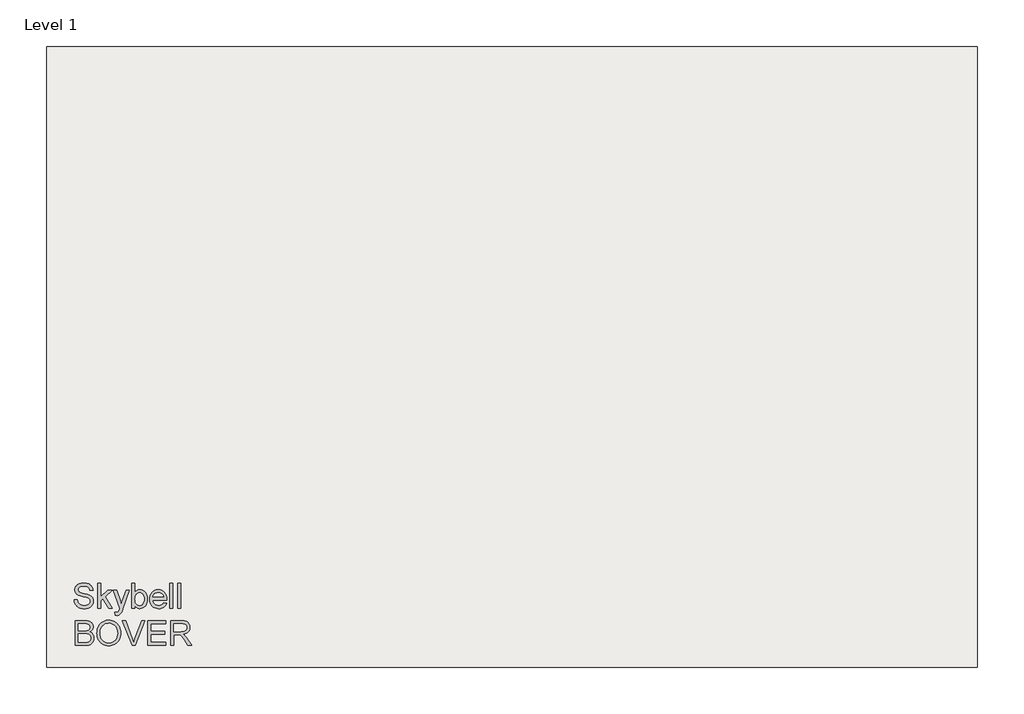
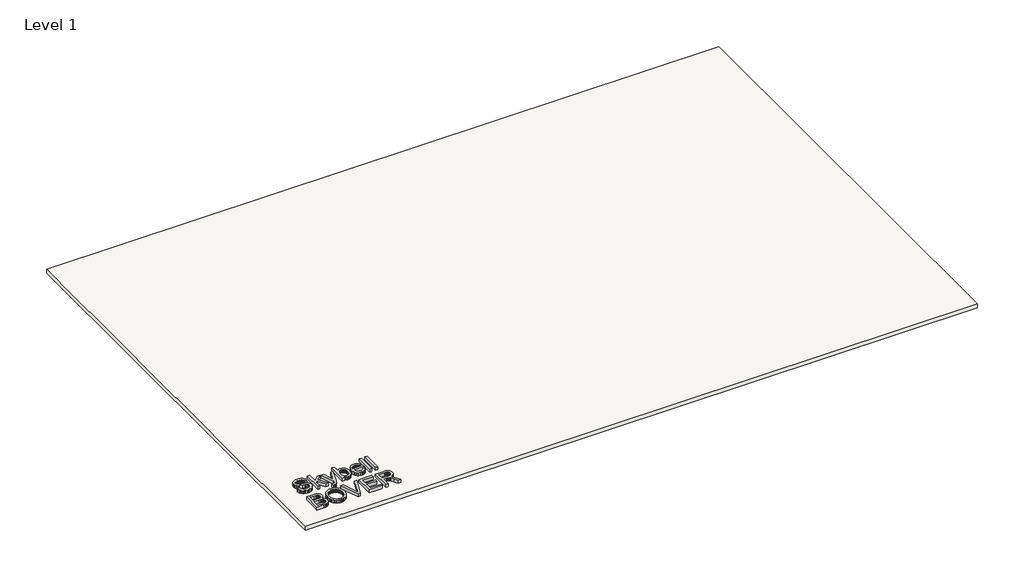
# One storey, incomplete: 2 proxies, 1 slab.
"""IFC4 building model written with IfcOpenShell, lengths in millimetres."""

from ifc_helpers import new_model, si_unit, frame, origin, origin_with_axes, place, context, project, spatial, polyline, outline, extrude, element, save

model = new_model("IFC4")

# Units and contexts
model_context = context("Model", 3, world=origin())
ifc_project = project(units=[si_unit("LENGTHUNIT", "METRE", prefix="MILLI")], contexts=[model_context])

# Site, building, storey
site = spatial("IfcSite", under=ifc_project)
building = spatial("IfcBuilding", under=site)
storey = spatial("IfcBuildingStorey", under=building, Name="Level 1", Elevation=0.0)

# Proxies
placement = place(None, origin())
element("IfcBuildingElementProxy", 1, Name="800mm Arial", ObjectType="800mm Arial", at=placement, inside=storey, context=model_context, shape_type="SweptSolid", body=[
    extrude(outline(polyline([(-17702.5035329, -9022.7630405), (-17702.5035329, -8223.3743422), (-17397.4633631, -8223.3743422), (-17353.2161935, -8224.8441654), (-17313.5675582, -8229.2536353), (-17278.5174571, -8236.6027516), (-17248.0658903, -8246.8915146), (-17221.4383035, -8260.2297034), (-17197.8601426, -8276.7270974), (-17177.3314075, -8296.3836966), (-17159.8520984, -8319.1995011), (-17145.8918267, -8343.887653), (-17135.920204, -8369.1612947), (-17129.9372305, -8395.0204262), (-17127.9429059, -8421.4650474), (-17129.6200902, -8445.8909487), (-17134.6516429, -8469.5971856), (-17143.0375641, -8492.5837578), (-17154.7778537, -8514.8506656), (-17169.9091049, -8535.7026398), (-17188.4679108, -8554.4444113), (-17210.4542714, -8571.07598), (-17235.8681867, -8585.5973461), (-17205.7093648, -8598.4537256), (-17179.246447, -8615.1645794), (-17156.4794333, -8635.7299076), (-17137.4083239, -8660.14971), (-17122.3380612, -8687.6799269), (-17111.5735878, -8717.5764983), (-17105.1149038, -8749.8394241), (-17102.9620091, -8784.4687044), (-17108.8413022, -8840.2122095), (-17126.4791815, -8891.9060771), (-17152.8018257, -8935.8666006), (-17184.7354136, -8968.4100736), (-17223.8412511, -8991.9760368), (-17271.6806443, -9009.0040309), (-17329.8148993, -9019.3232881), (-17399.8053221, -9022.7630405), (-17702.5035329, -9022.7630405)]), holes=[polyline([(-17602.5799456, -8548.1260009), (-17420.1023008, -8548.1260009), (-17356.283916, -8545.979205), (-17313.5431628, -8539.5388176), (-17276.2425854, -8524.7308055), (-17249.4320331, -8502.5553805), (-17233.2578782, -8473.3540782), (-17227.8664932, -8437.4684345), (-17232.8919471, -8402.6317932), (-17247.9683086, -8372.2839068), (-17272.4125065, -8348.5959666), (-17305.5414693, -8333.7391637), (-17356.3814976, -8325.908238), (-17433.958892, -8323.2979294), (-17602.5799456, -8323.2979294), (-17602.5799456, -8548.1260009)]), polyline([(-17602.5799456, -8922.8394532), (-17397.6585263, -8922.8394532), (-17323.4964889, -8918.9361881), (-17289.0745695, -8910.2758186), (-17260.7515019, -8897.175485), (-17237.7222377, -8878.415417), (-17219.1817283, -8852.7758441), (-17206.9596294, -8821.4033507), (-17202.8855964, -8785.4445207), (-17207.6670962, -8743.6795838), (-17222.0115955, -8707.7695446), (-17233.0566161, -8692.5041187), (-17247.0656786, -8679.6904311), (-17264.038783, -8669.328482), (-17283.9759295, -8661.4182712), (-17336.2552868, -8651.3917589), (-17407.4166891, -8648.0495882), (-17602.5799456, -8648.0495882), (-17602.5799456, -8922.8394532)])]), origin_with_axes(), (0.0, 0.0, 1.0), 150.0),
    extrude(outline(polyline([(-17003.0384218, -8633.6075072), (-17001.3734353, -8585.3808369), (-16996.3784757, -8539.8437602), (-16988.053543, -8496.9962771), (-16976.3986373, -8456.8383877), (-16961.4137585, -8419.3700919), (-16943.0989067, -8384.5913897), (-16921.4540818, -8352.5022811), (-16896.4792838, -8323.1027662), (-16868.8728313, -8296.801468), (-16839.3330428, -8274.0070095), (-16807.8599183, -8254.7193908), (-16774.4534577, -8238.9386119), (-16739.1136612, -8226.6646727), (-16701.8405286, -8217.8975733), (-16662.6340601, -8212.6373136), (-16621.4942555, -8210.8838937), (-16567.7145807, -8214.1772737), (-16516.642796, -8224.0574136), (-16468.2789015, -8240.5243133), (-16422.6228972, -8263.577973), (-16380.9555419, -8292.5231235), (-16344.5575946, -8326.6644956), (-16313.4290552, -8366.0020895), (-16287.5699237, -8410.5359051), (-16267.2485497, -8459.253533), (-16252.7332825, -8511.1425638), (-16244.0241222, -8566.2029975), (-16241.1210687, -8624.4348341), (-16244.1765935, -8683.4351261), (-16253.3431677, -8739.2396197), (-16268.6207913, -8791.848315), (-16290.0094645, -8841.261212), (-16317.0029824, -8886.1731564), (-16349.0951403, -8925.2789939), (-16386.2859384, -8958.5787245), (-16428.5753765, -8986.0723483), (-16474.2984682, -9007.5890973), (-16521.7902269, -9022.9582038), (-16571.0506526, -9032.1796676), (-16622.0797453, -9035.2534889), (-16676.7986433, -9031.8564285), (-16728.5413017, -9021.6652472), (-16777.3077204, -9004.679945), (-16823.0978994, -8980.900522), (-16864.7164638, -8951.2479047), (-16900.9680387, -8916.6430198), (-16931.852624, -8877.0858673), (-16957.3702198, -8832.5764471), (-16977.3500582, -8784.9017229), (-16991.6213713, -8735.8486581), (-17000.1841592, -8685.4172529), (-17003.0384218, -8633.6075072)]), holes=[polyline([(-16903.1148345, -8634.5833235), (-16898.1198749, -8700.8290513), (-16883.1349962, -8759.63418), (-16858.1601982, -8810.9987096), (-16823.195481, -8854.92264), (-16780.6925831, -8890.1008169), (-16733.1032428, -8915.2280862), (-16680.4274601, -8930.3044478), (-16622.665235, -8935.3299016), (-16563.914996, -8930.2556569), (-16510.6171304, -8915.0329229), (-16462.7716384, -8889.6616996), (-16420.3785197, -8854.1419869), (-16401.7846454, -8832.7807586), (-16385.6699544, -8809.2910311), (-16360.8781219, -8755.9260781), (-16346.0030225, -8694.0471282), (-16341.044656, -8623.6541811), (-16343.1670564, -8577.9249906), (-16349.5342577, -8535.1964351), (-16360.1462597, -8495.4685147), (-16375.0030626, -8458.7412294), (-16393.9399974, -8425.4963884), (-16416.7923949, -8396.2158011), (-16443.5602553, -8370.8994675), (-16474.2435785, -8349.5473874), (-16507.8909437, -8332.5986784), (-16543.55093, -8320.4924576), (-16581.2235373, -8313.2287252), (-16620.9087657, -8310.807481), (-16676.6644686, -8315.4731026), (-16728.3949292, -8329.4699674), (-16776.1001477, -8352.7980754), (-16819.780124, -8385.4574266), (-16839.3116968, -8405.6796944), (-16856.2390599, -8429.0215248), (-16870.5622132, -8455.4829179), (-16882.2811569, -8485.0638736), (-16891.3958909, -8517.7643921), (-16897.9064151, -8553.5844732), (-16903.1148345, -8634.5833235)])]), origin_with_axes(), (0.0, 0.0, 1.0), 150.0),
    extrude(outline(polyline([(-15867.5785959, -9022.7630405), (-16185.6947039, -8223.3743422), (-16078.7452394, -8223.3743422), (-15865.8221266, -8799.3011119), (-15822.6910469, -8929.0846774), (-15780.145457, -8799.3011119), (-15566.6368545, -8223.3743422), (-15459.68739, -8223.3743422), (-15764.3372333, -9022.7630405), (-15867.5785959, -9022.7630405)])), origin_with_axes(), (0.0, 0.0, 1.0), 150.0),
    extrude(outline(polyline([(-15366.7896799, -9022.7630405), (-15366.7896799, -8223.3743422), (-14792.229053, -8223.3743422), (-14792.229053, -8323.2979294), (-15266.8660926, -8323.2979294), (-15266.8660926, -8560.6164493), (-14817.2099498, -8560.6164493), (-14817.2099498, -8660.5400366), (-15266.8660926, -8660.5400366), (-15266.8660926, -8922.8394532), (-14779.7386046, -8922.8394532), (-14779.7386046, -9022.7630405), (-15366.7896799, -9022.7630405)])), origin_with_axes(), (0.0, 0.0, 1.0), 150.0),
    extrude(outline(polyline([(-14629.8532236, -9022.7630405), (-14629.8532236, -8223.3743422), (-14285.390076, -8223.3743422), (-14192.8095063, -8228.7657271), (-14155.9785405, -8235.5049583), (-14125.4537874, -8244.939882), (-14099.4604812, -8257.7962615), (-14076.2238559, -8274.7998602), (-14055.7439117, -8295.9506781), (-14038.0206485, -8321.2487153), (-14023.7188411, -8349.3339276), (-14013.5032644, -8378.8462713), (-14007.3739184, -8409.7857463), (-14005.330803, -8442.1523526), (-14008.7156658, -8483.2098227), (-14018.870254, -8520.9007266), (-14035.7945676, -8555.2250643), (-14059.4886067, -8586.1828359), (-14090.2573138, -8612.7860273), (-14128.4056316, -8634.0466245), (-14173.93356, -8649.9646276), (-14226.8410991, -8660.5400366), (-14193.9072996, -8682.0567856), (-14170.0485915, -8703.2807897), (-14129.1130984, -8751.8276498), (-14089.0558401, -8806.1318259), (-13955.7593359, -9022.7630405), (-14071.8814735, -9022.7630405), (-14175.9034892, -8857.0694358), (-14251.0413429, -8747.3876857), (-14278.974084, -8715.405307), (-14303.8330038, -8695.5718411), (-14327.3745716, -8683.9352319), (-14351.3552567, -8676.5434236), (-14409.3187439, -8673.030485), (-14529.9296363, -8673.030485), (-14529.9296363, -9022.7630405), (-14629.8532236, -9022.7630405)]), holes=[polyline([(-14529.9296363, -8573.1068977), (-14306.2725445, -8573.1068977), (-14242.0394377, -8569.5695637), (-14192.1996211, -8558.9575616), (-14154.679485, -8540.5634247), (-14139.7616936, -8528.1827556), (-14127.4054199, -8513.6796861), (-14110.7921477, -8481.1606085), (-14105.2543903, -8445.8604545), (-14107.8951931, -8420.3062656), (-14115.8176016, -8397.1184312), (-14129.0216157, -8376.2969513), (-14147.5072354, -8357.8418258), (-14171.7013803, -8342.7288712), (-14202.0309701, -8331.9339035), (-14238.4960048, -8325.456923), (-14281.0964844, -8323.2979294), (-14529.9296363, -8323.2979294), (-14529.9296363, -8573.1068977)])]), origin_with_axes(), (0.0, 0.0, 1.0), 150.0),
])
element("IfcBuildingElementProxy", 2, Name="800mm Arial", ObjectType="800mm Arial", at=placement, inside=storey, context=model_context, shape_type="SweptSolid", body=[
    extrude(outline(polyline([(-17739.9748781, -7547.9731754), (-17640.0512908, -7547.9731754), (-17628.5854495, -7603.4239357), (-17619.3761833, -7627.069184), (-17607.8493535, -7647.9943444), (-17593.4194702, -7666.6202376), (-17575.5010438, -7683.3676846), (-17554.0940741, -7698.2366852), (-17529.1985612, -7711.2272394), (-17501.7293328, -7721.7721541), (-17472.6012168, -7729.3042361), (-17409.3683217, -7735.3299016), (-17353.6980028, -7730.7679605), (-17304.9559795, -7717.0821371), (-17265.4598155, -7695.4190157), (-17250.0480171, -7682.0259372), (-17237.5270744, -7666.9251802), (-17220.9138022, -7634.2109394), (-17215.3760448, -7599.8866017), (-17219.523264, -7566.4404986), (-17231.9649216, -7537.5319412), (-17242.4305512, -7524.706056), (-17257.2385633, -7512.8681847), (-17299.8817349, -7492.1564841), (-17352.6490003, -7476.4702374), (-17445.3759425, -7454.0020675), (-17540.8839611, -7428.7528212), (-17601.9944558, -7404.7233452), (-17628.6769323, -7388.8053421), (-17651.7366908, -7371.1064743), (-17671.1737314, -7351.6267418), (-17686.988054, -7330.3661445), (-17699.2406472, -7307.5442412), (-17707.9924995, -7283.3805905), (-17713.2436108, -7257.8751925), (-17714.9939813, -7231.028047), (-17712.8288889, -7201.2717492), (-17706.3336118, -7172.5034655), (-17695.5081499, -7144.7231957), (-17680.3525033, -7117.9309399), (-17661.0374397, -7093.2183926), (-17637.7337271, -7071.6772481), (-17610.4413655, -7053.3075066), (-17579.1603548, -7038.109168), (-17544.9457964, -7026.1981105), (-17508.8527917, -7017.6902123), (-17470.8813406, -7012.5854734), (-17431.0314432, -7010.8838937), (-17387.5588278, -7012.6647585), (-17346.7209164, -7018.0073526), (-17308.517709, -7026.9116762), (-17272.9492055, -7039.3777292), (-17240.6740819, -7055.2957323), (-17212.3510143, -7074.5559062), (-17187.9800027, -7097.1582508), (-17167.561047, -7123.1027662), (-17151.2527174, -7151.6331947), (-17139.213584, -7181.9932788), (-17131.4436469, -7214.1830184), (-17127.9429059, -7248.2024136), (-17227.8664932, -7248.2024136), (-17234.5508348, -7216.3176165), (-17246.2118393, -7188.5800387), (-17262.8495069, -7164.9896801), (-17284.4638376, -7145.5465407), (-17311.4573555, -7130.3482021), (-17344.2325849, -7119.4922459), (-17382.7895257, -7112.9786723), (-17427.128178, -7110.807481), (-17472.881764, -7112.9542769), (-17511.9754038, -7119.3946643), (-17544.4090975, -7130.1286434), (-17570.182845, -7145.1562142), (-17589.8211477, -7163.2210131), (-17603.8485067, -7183.0666767), (-17612.2649222, -7204.6932051), (-17615.070394, -7228.1005982), (-17613.0821683, -7248.2390067), (-17607.1174913, -7266.4989689), (-17597.1763629, -7282.8804847), (-17583.2587832, -7297.3835542), (-17561.3517077, -7311.1181684), (-17526.8566021, -7324.999155), (-17420.1023008, -7353.2002455), (-17309.9326426, -7379.9864025), (-17243.2843905, -7403.3572024), (-17212.6498581, -7420.4217897), (-17186.321115, -7439.6087773), (-17164.2981613, -7460.9181654), (-17146.5809969, -7484.3499538), (-17132.9622609, -7509.7821657), (-17123.2345924, -7537.0928239), (-17117.3979912, -7566.2819284), (-17115.4524575, -7597.3494793), (-17117.6907361, -7628.6060946), (-17124.4055719, -7658.9478821), (-17135.5969649, -7688.3748419), (-17151.2649151, -7716.8869739), (-17171.1349741, -7743.3803859), (-17194.9326937, -7766.7511859), (-17222.6580738, -7786.9993738), (-17254.3111145, -7804.1249495), (-17288.9708891, -7817.7436855), (-17325.7164709, -7827.4713541), (-17364.5478601, -7833.3079552), (-17405.4650566, -7835.2534889), (-17456.5795332, -7833.1554839), (-17503.3638251, -7826.8614689), (-17545.8179322, -7816.3714439), (-17583.9418546, -7801.6854088), (-17617.9673486, -7782.7789683), (-17648.1261706, -7759.627727), (-17674.4183205, -7732.2316849), (-17696.8437984, -7700.590842), (-17714.9085974, -7665.7298053), (-17728.1187103, -7628.673182), (-17736.4741372, -7589.420972), (-17739.9748781, -7547.9731754)])), origin_with_axes(), (0.0, 0.0, 1.0), 150.0),
    extrude(outline(polyline([(-16978.057525, -7822.7630405), (-16978.057525, -7023.3743422), (-16878.1339377, -7023.3743422), (-16878.1339377, -7452.9286696), (-16654.0865193, -7235.7119652), (-16515.9109338, -7235.7119652), (-16742.6906377, -7455.6609552), (-16503.4204854, -7822.7630405), (-16620.1281127, -7822.7630405), (-16814.3155529, -7525.1390744), (-16878.1339377, -7587.0058267), (-16878.1339377, -7822.7630405), (-16978.057525, -7822.7630405)])), origin_with_axes(), (0.0, 0.0, 1.0), 150.0),
    extrude(outline(polyline([(-16415.9873465, -8047.5911119), (-16428.4777949, -7951.3756265), (-16401.2525206, -7957.9623864), (-16377.7353482, -7960.157973), (-16351.0467729, -7957.401292), (-16330.3106769, -7949.131249), (-16314.1609174, -7935.9333338), (-16301.2313517, -7918.3930361), (-16273.9084958, -7844.8164885), (-16266.1019655, -7820.6162447), (-16478.4395885, -7235.7119652), (-16373.0514301, -7235.7119652), (-16260.4422311, -7561.6346034), (-16221.2144166, -7692.0036587), (-16181.986602, -7576.8573374), (-16066.254791, -7235.7119652), (-15961.6472855, -7235.7119652), (-16165.983215, -7836.814795), (-16196.3311014, -7916.7341485), (-16219.0676207, -7967.1838503), (-16246.2441042, -8008.8024147), (-16277.0311079, -8037.6377858), (-16294.1200905, -8047.4569372), (-16312.7947746, -8054.4706167), (-16354.9012472, -8060.0815603), (-16383.8342, -8056.9589482), (-16415.9873465, -8047.5911119)])), origin_with_axes(), (0.0, 0.0, 1.0), 150.0),
    extrude(outline(polyline([(-15778.9744775, -7822.7630405), (-15878.8980648, -7822.7630405), (-15878.8980648, -7023.3743422), (-15778.9744775, -7023.3743422), (-15778.9744775, -7319.8273287), (-15746.1138642, -7277.562286), (-15709.0084501, -7247.3729697), (-15688.8639427, -7236.806709), (-15667.6582351, -7229.25938), (-15622.0632193, -7223.2215167), (-15570.5889104, -7228.6616925), (-15521.9444688, -7244.9822198), (-15478.9109707, -7271.1584916), (-15444.2694927, -7306.1659007), (-15417.1174047, -7349.6629115), (-15396.5520765, -7401.3079882), (-15383.5981154, -7458.9543351), (-15379.2801283, -7520.4551563), (-15383.7505867, -7591.4213954), (-15397.1619617, -7653.8492421), (-15419.5142534, -7707.7386962), (-15450.8074618, -7753.089758), (-15488.3702898, -7789.0363902), (-15529.5314404, -7814.7125562), (-15574.2909135, -7830.1182557), (-15622.6487091, -7835.2534889), (-15646.8642, -7833.5976507), (-15669.7440424, -7828.6301359), (-15691.2882363, -7820.3509446), (-15711.4967816, -7808.7600768), (-15730.3696784, -7793.8575326), (-15747.9069266, -7775.6433118), (-15778.9744775, -7729.2798407), (-15778.9744775, -7822.7630405)]), holes=[polyline([(-15778.9744775, -7525.1390744), (-15777.266799, -7570.1729959), (-15772.1437635, -7608.4737849), (-15763.605371, -7640.0414417), (-15751.6516216, -7664.875966), (-15727.4391801, -7695.6995629), (-15699.299078, -7717.7164177), (-15667.2313155, -7730.9265306), (-15631.2358924, -7735.3299016), (-15601.3515187, -7732.0853125), (-15573.5651501, -7722.3515451), (-15547.8767865, -7706.1285994), (-15524.2864278, -7683.4164754), (-15504.5627412, -7654.2761617), (-15490.4743937, -7618.7686467), (-15482.0213851, -7576.8939305), (-15479.2037156, -7528.6520131), (-15481.9055069, -7479.4952678), (-15490.0108809, -7437.2180274), (-15503.5198376, -7401.8202918), (-15522.4323769, -7373.3020609), (-15545.1749951, -7351.3583923), (-15570.1741885, -7335.6843433), (-15597.429957, -7326.2799138), (-15626.9423007, -7323.145104), (-15656.8266744, -7326.3896932), (-15684.613043, -7336.1234606), (-15710.3014066, -7352.3464063), (-15733.8917653, -7375.0585302), (-15753.6154519, -7403.9060991), (-15767.7037994, -7438.5353794), (-15776.156808, -7478.9463712), (-15778.9744775, -7525.1390744)])]), origin_with_axes(), (0.0, 0.0, 1.0), 150.0),
    extrude(outline(polyline([(-14855.8522746, -7647.8967627), (-14757.8803198, -7660.3872111), (-14772.9017917, -7699.6272234), (-14793.1804738, -7734.2077129), (-14818.7163662, -7764.1286796), (-14849.5094687, -7789.3901236), (-14885.2426412, -7809.455346), (-14925.5987433, -7823.7876476), (-14970.5777751, -7832.3870286), (-15020.1797365, -7835.2534889), (-15082.1806635, -7830.3073201), (-15137.4240628, -7815.4688138), (-15185.9099343, -7790.7379699), (-15227.6382781, -7756.1147884), (-15261.1941605, -7712.562888), (-15285.1626479, -7661.0458871), (-15299.5437404, -7601.5637859), (-15304.3374378, -7534.1165842), (-15299.4949495, -7464.3823132), (-15284.9674846, -7402.9180851), (-15260.7550431, -7349.7239), (-15245.0169562, -7326.2280736), (-15226.857625, -7304.7997579), (-15185.2390606, -7269.1092774), (-15137.8631801, -7243.616077), (-15084.7299835, -7228.3201568), (-15025.8394709, -7223.2215167), (-14968.8457012, -7228.3079591), (-14917.3043049, -7243.5672862), (-14871.2152822, -7268.9994981), (-14830.5786329, -7304.6045947), (-14797.4069781, -7349.4311551), (-14773.712939, -7402.5277586), (-14759.4965156, -7463.894405), (-14754.7577077, -7533.5310945), (-14755.3431975, -7560.4636239), (-15204.4138506, -7560.4636239), (-15198.6260402, -7600.3379167), (-15187.117507, -7635.2599419), (-15169.8882507, -7665.2296994), (-15146.9382715, -7690.2471894), (-15119.5361306, -7709.970876), (-15088.950389, -7724.0592236), (-15055.1810468, -7732.5122321), (-15018.2281039, -7735.3299016), (-14965.0461165, -7730.1092845), (-14920.2561492, -7714.4474332), (-14901.008173, -7702.4570906), (-14883.8582019, -7687.3685313), (-14868.8062357, -7669.1817554), (-14855.8522746, -7647.8967627)]), holes=[polyline([(-15204.4138506, -7460.5400366), (-14854.681295, -7460.5400366), (-14859.8165282, -7432.2657598), (-14868.1963505, -7407.7483757), (-14879.820762, -7386.9878843), (-14894.6897626, -7369.9842856), (-14921.9394323, -7349.4921437), (-14952.9459946, -7334.8548994), (-14987.7094497, -7326.0725529), (-15026.2297974, -7323.145104), (-15061.3652824, -7325.4809643), (-15093.5855163, -7332.4885449), (-15122.890499, -7344.1678461), (-15149.2802306, -7360.5188676), (-15171.4251614, -7380.7853521), (-15187.9957416, -7404.2110417), (-15198.9919713, -7430.7959365), (-15204.4138506, -7460.5400366)])]), origin_with_axes(), (0.0, 0.0, 1.0), 150.0),
    extrude(outline(polyline([(-14654.8341204, -7822.7630405), (-14654.8341204, -7023.3743422), (-14554.9105332, -7023.3743422), (-14554.9105332, -7822.7630405), (-14654.8341204, -7822.7630405)])), origin_with_axes(), (0.0, 0.0, 1.0), 150.0),
    extrude(outline(polyline([(-14405.0251522, -7822.7630405), (-14405.0251522, -7023.3743422), (-14305.1015649, -7023.3743422), (-14305.1015649, -7822.7630405), (-14405.0251522, -7822.7630405)])), origin_with_axes(), (0.0, 0.0, 1.0), 150.0),
])

# Slab
element("IfcSlab", 3, ObjectType="Generic Floor - 400mm", at=placement, inside=storey, context=model_context, shape_type="SweptSolid", body=[
    extrude(outline(polyline([(11372.0161744, 10278.1535958), (11372.0161744, -9721.8464042), (-18627.9838256, -9721.8464042), (-18627.9838256, 10278.1535958), (11372.0161744, 10278.1535958)])), frame((0.0, 0.0, -200.0), z_axis=(0.0, 0.0, 1.0), x_axis=(1.0, 0.0, 0.0)), (0.0, 0.0, 1.0), 200.0),
])

save(model, "model.ifc")
